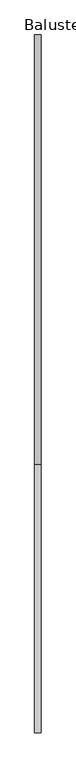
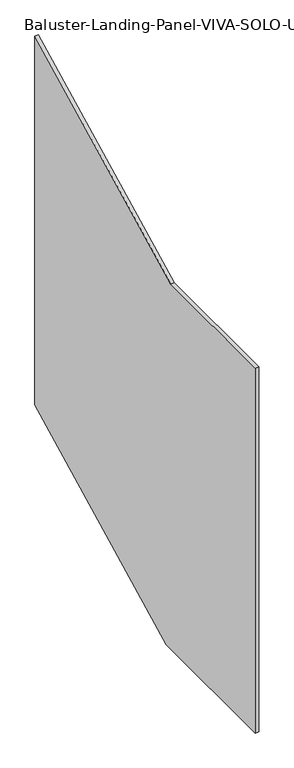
"""IFC4 building model written with IfcOpenShell, lengths in millimetres: railing geometry, Baluster-Landing-Panel-VIVA-SOLO-Upper : Standard_Glass."""

import ifcopenshell
import ifcopenshell.guid

model = None  # the IFC model being written
_history = None  # IfcOwnerHistory: only IFC2X3 demands one
_inside = {}  # id of a spatial element -> (the spatial element, [elements in it])
_under = {}  # id of a project, library or spatial element -> (it, [spatial elements below it])
_declared = {}  # id of a project -> (the project, [libraries it declares])
_typed = {}  # id of a type object -> (the type object, [elements of that type])
_made_of = {}  # id of a material, layer set ... -> (it, [elements and type objects made of it])


def new_model(schema):
    """Start an empty IFC model of exactly this schema.

    Asked for "IFC4X3", IfcOpenShell would pick the latest addendum, in which some entities
    have other attributes; the version numbers below select the first issue.
    IFC2X3 requires an IfcOwnerHistory on every rooted entity: one is made here for all.
    """
    global model, _history
    if schema == "IFC4X3":
        model = ifcopenshell.file(schema_version=(4, 3, 0, 0))
    else:
        model = ifcopenshell.file(schema=schema)
    _inside.clear()
    _under.clear()
    _declared.clear()
    _typed.clear()
    _made_of.clear()
    _history = None
    if model.schema == "IFC2X3":
        org = make("IfcOrganization", Name="unknown")
        user = make(
            "IfcPersonAndOrganization",
            ThePerson=make("IfcPerson", FamilyName="unknown"),
            TheOrganization=org,
        )
        app = make(
            "IfcApplication",
            ApplicationDeveloper=org,
            Version="unknown",
            ApplicationFullName="unknown",
            ApplicationIdentifier="unknown",
        )
        _history = make(
            "IfcOwnerHistory",
            OwningUser=user,
            OwningApplication=app,
            ChangeAction="ADDED",
            CreationDate=0,
        )
    return model


def make(cls, **values):
    """One entity of the class cls with the attributes given. An attribute that is None is left unset."""
    return model.create_entity(
        cls, **{name: value for name, value in values.items() if value is not None}
    )


def rooted(cls, **values):
    """An entity with a GlobalId (a new one), such as an element, a storey or a relation."""
    return make(cls, GlobalId=ifcopenshell.guid.new(), OwnerHistory=_history, **values)


def si_unit(unit_type, name, prefix=None):
    """IfcSIUnit, for example si_unit("LENGTHUNIT", "METRE", prefix="MILLI")."""
    return make("IfcSIUnit", UnitType=unit_type, Prefix=prefix, Name=name)


def assignment(units):
    """IfcUnitAssignment: the units of a project."""
    return None if units is None else make("IfcUnitAssignment", Units=units)


def point(xyz):
    """IfcCartesianPoint."""
    return None if xyz is None else make("IfcCartesianPoint", Coordinates=xyz)


def direction(xyz):
    """IfcDirection."""
    return None if xyz is None else make("IfcDirection", DirectionRatios=xyz)


def frame(location, z_axis=None, x_axis=None):
    """IfcAxis2Placement3D, a coordinate frame: its origin and axes. An axis left out is left unset."""
    return make(
        "IfcAxis2Placement3D",
        Location=point(location),
        Axis=direction(z_axis),
        RefDirection=direction(x_axis),
    )


def origin():
    """The frame at (0, 0, 0) with its axes left unset."""
    return frame((0.0, 0.0, 0.0))


def place(relative_to, where):
    """IfcLocalPlacement: puts the frame where relative to a parent placement (None: the world)."""
    return make(
        "IfcLocalPlacement", PlacementRelTo=relative_to, RelativePlacement=where
    )


def context(
    kind, dimensions, precision=None, world=None, true_north=None, identifier=None
):
    """IfcGeometricRepresentationContext, for example the 3D "Model" context."""
    return make(
        "IfcGeometricRepresentationContext",
        ContextIdentifier=identifier,
        ContextType=kind,
        CoordinateSpaceDimension=dimensions,
        Precision=precision,
        WorldCoordinateSystem=world,
        TrueNorth=true_north,
    )


def project(units=None, contexts=None):
    """IfcProject with its units and contexts."""
    return rooted(
        "IfcProject",
        Name="project",
        RepresentationContexts=contexts,
        UnitsInContext=assignment(units),
    )


def spatial(cls, under=None, at=None, **own):
    """A site, building, storey or space (cls), placed at a placement, below another one or the project."""
    s = rooted(cls, ObjectPlacement=at, **own)
    if under is not None:
        _under.setdefault(under.id(), (under, []))[1].append(s)
    return s


def polyline(points):
    """IfcPolyline through the points."""
    return make("IfcPolyline", Points=[point(p) for p in points])


def outline(outer, holes=None, kind="AREA"):
    """IfcArbitraryClosedProfileDef: a profile drawn as a closed curve; with holes, ...WithVoids."""
    if holes is None:
        return make("IfcArbitraryClosedProfileDef", ProfileType=kind, OuterCurve=outer)
    return make(
        "IfcArbitraryProfileDefWithVoids",
        ProfileType=kind,
        OuterCurve=outer,
        InnerCurves=holes,
    )


def extrude(swept, where, along, depth):
    """IfcExtrudedAreaSolid: the profile swept, set in the frame where, extruded along a direction by depth."""
    return make(
        "IfcExtrudedAreaSolid",
        SweptArea=swept,
        Position=where,
        ExtrudedDirection=direction(along),
        Depth=depth,
    )


def shape(context_of_items, identifier, shape_type, items):
    """IfcShapeRepresentation: the items that make up one representation, for example the "Body"."""
    return make(
        "IfcShapeRepresentation",
        ContextOfItems=context_of_items,
        RepresentationIdentifier=identifier,
        RepresentationType=shape_type,
        Items=items,
    )


def source(mapping_origin, context_of_items, identifier, shape_type, items):
    """IfcRepresentationMap: a shape defined once, which mapped items show again and again."""
    return make(
        "IfcRepresentationMap",
        MappingOrigin=mapping_origin,
        MappedRepresentation=shape(context_of_items, identifier, shape_type, items),
    )


def transform(
    local_origin,
    x_axis=None,
    y_axis=None,
    z_axis=None,
    scale=None,
    scale2=None,
    scale3=None,
    uniform=True,
):
    """IfcCartesianTransformationOperator3D, or its non-uniform kind. x_axis, y_axis, z_axis: its Axis1, 2, 3."""
    if uniform:
        return make(
            "IfcCartesianTransformationOperator3D",
            Axis1=direction(x_axis),
            Axis2=direction(y_axis),
            LocalOrigin=point(local_origin),
            Scale=scale,
            Axis3=direction(z_axis),
        )
    return make(
        "IfcCartesianTransformationOperator3DnonUniform",
        Axis1=direction(x_axis),
        Axis2=direction(y_axis),
        LocalOrigin=point(local_origin),
        Scale=scale,
        Axis3=direction(z_axis),
        Scale2=scale2,
        Scale3=scale3,
    )


def mapped(mapping_source, mapping_target):
    """IfcMappedItem: shows the shape of a source again, moved by a transform."""
    return make(
        "IfcMappedItem", MappingSource=mapping_source, MappingTarget=mapping_target
    )


def made_of(thing, what):
    """Note that an element or type object is made of a material, layer set ...; save() writes the relation."""
    if what is not None:
        _made_of.setdefault(what.id(), (what, []))[1].append(thing)
    return thing


def element(
    cls,
    number,
    at=None,
    inside=None,
    cuts=None,
    type_object=None,
    material=None,
    context=None,
    identifier="Body",
    shape_type=None,
    held_by="IfcProductDefinitionShape",
    body=None,
    shapes=None,
    **own,
):
    """One element of the class cls, such as IfcWall. Its Tag is "e" and its number.

    at: its placement. inside: the storey or other place that contains it. cuts: it is an
    opening in that element (IfcRelVoidsElement). A single representation is given by context,
    identifier, shape_type and body (its items); several are given by shapes. held_by: the class
    of the entity that holds the representations. save() writes the other relations.
    """
    e = rooted(cls, Tag="e%d" % number, ObjectPlacement=at, **own)
    if body is not None:
        shapes = [shape(context, identifier, shape_type, body)]
    if shapes is not None:
        e.Representation = make(held_by, Representations=shapes)
    if inside is not None:
        _inside.setdefault(inside.id(), (inside, []))[1].append(e)
    if cuts is not None:
        rooted(
            "IfcRelVoidsElement", RelatingBuildingElement=cuts, RelatedOpeningElement=e
        )
    if type_object is not None:
        _typed.setdefault(type_object.id(), (type_object, []))[1].append(e)
    return made_of(e, material)


def aggregate(whole, parts):
    """IfcRelAggregates: a whole, such as a stair, and the parts it consists of."""
    return rooted("IfcRelAggregates", RelatingObject=whole, RelatedObjects=parts)


def save(model, path):
    """Write the relations noted so far, then the file.

    IfcRelAggregates (storeys below a building ...), IfcRelContainedInSpatialStructure (elements
    in a storey), IfcRelDefinesByType, IfcRelAssociatesMaterial and IfcRelDeclares: one each for
    every whole, place, type object, material and project.
    """
    for whole, parts in _under.values():
        aggregate(whole, parts)
    for where, things in _inside.values():
        rooted(
            "IfcRelContainedInSpatialStructure",
            RelatedElements=things,
            RelatingStructure=where,
        )
    for kind, things in _typed.values():
        rooted("IfcRelDefinesByType", RelatedObjects=things, RelatingType=kind)
    for what, things in _made_of.values():
        rooted("IfcRelAssociatesMaterial", RelatedObjects=things, RelatingMaterial=what)
    for by, libraries in _declared.values():
        rooted("IfcRelDeclares", RelatingContext=by, RelatedDefinitions=libraries)
    model.write(path)


def baluster_landing_panel_viva_solo_upper_standard_glass_274dfbd6(model_context):
    return source(origin(), model_context, "Body", "SweptSolid", [
        extrude(outline(polyline([(-629.6377199, 1109.345), (0.0, 1429.8846467), (0.0, 385.572), (-609.0084669, 75.5344139), (-1021.9757429, 75.5344139), (-1021.9757429, 1109.345), (-629.6377199, 1109.345)])), frame((31.6077292, 0.0, 0.0), z_axis=(1.0, 0.0, 0.0), x_axis=(0.0, 1.0, 0.0)), (0.0, 0.0, 1.0), 9.525),
    ])


if __name__ == "__main__":
    model = new_model("IFC4")
    model_context = context("Model", 3, world=origin())
    ifc_project = project(units=[si_unit("LENGTHUNIT", "METRE", prefix="MILLI")], contexts=[model_context])
    site = spatial("IfcSite", under=ifc_project)
    building = spatial("IfcBuilding", under=site)
    placement = place(None, origin())
    baluster_landing_panel_viva_solo_upper_standard_glass_shape = baluster_landing_panel_viva_solo_upper_standard_glass_274dfbd6(model_context)
    element("IfcRailing", 1, ObjectType="Baluster-Landing-Panel-VIVA-SOLO-Upper : Standard_Glass", at=placement, inside=building, context=model_context, shape_type="MappedRepresentation", body=[
        mapped(baluster_landing_panel_viva_solo_upper_standard_glass_shape, transform((0.0, 0.0, 0.0), x_axis=(1.0, 0.0, 0.0), y_axis=(0.0, 1.0, 0.0), z_axis=(0.0, 0.0, 1.0))),
    ])
    save(model, "model.ifc")
